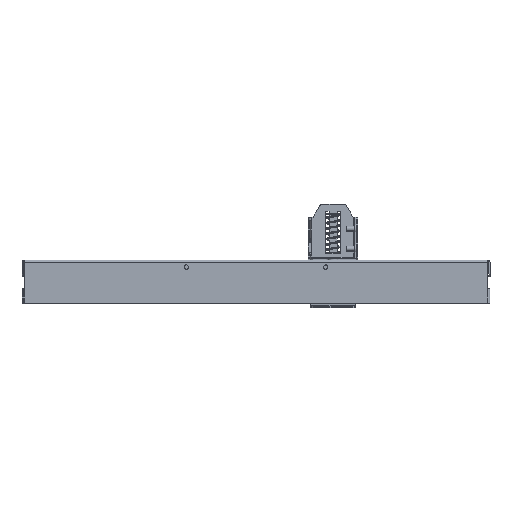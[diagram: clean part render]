
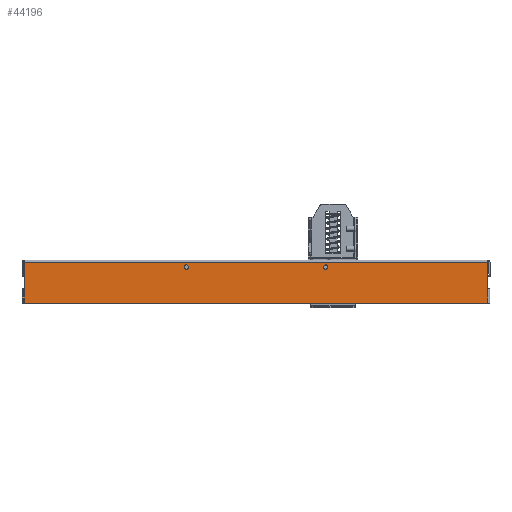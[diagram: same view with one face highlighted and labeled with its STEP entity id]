
A CAD part, front view. The second image highlights one B-rep face of the part: STEP entity #44196.
In plain terms, the highlighted planar face has unit normal (0, -1, 0).
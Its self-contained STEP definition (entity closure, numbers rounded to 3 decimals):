
#30166=CARTESIAN_POINT(' ',(-232.793,-107.5,-2.1));
#30167=VERTEX_POINT(' ',#30166);
#41441=CARTESIAN_POINT(' ',(232.793,-107.5,-2.1));
#41446=DIRECTION(' ',(-1.,0.,0.));
#41451=VECTOR(' ',#41446,1.);
#41456=LINE('',#41441,#41451);
#41461=CARTESIAN_POINT(' ',(232.793,-107.5,-2.1));
#41462=VERTEX_POINT(' ',#41461);
#41466=EDGE_CURVE(' ',#41462,#30167,#41456,.T.);
#41881=CARTESIAN_POINT(' ',(-232.793,-107.5,-28.5));
#41882=VERTEX_POINT(' ',#41881);
#41896=CARTESIAN_POINT(' ',(-232.793,-107.5,-28.5));
#41901=DIRECTION(' ',(0.,0.,1.));
#41906=VECTOR(' ',#41901,1.);
#41911=LINE('',#41896,#41906);
#41916=EDGE_CURVE(' ',#41882,#30167,#41911,.T.);
#43836=DIRECTION(' ',(0.,-1.,0.));
#43841=CARTESIAN_POINT(' ',(-232.793,-107.5,-2.1));
#43846=DIRECTION(' ',(0.,0.,-1.));
#43851=AXIS2_PLACEMENT_3D(' ',#43841,#43836,#43846);
#43856=PLANE('NONE',#43851);
#43861=CARTESIAN_POINT(' ',(-232.793,-107.5,-43.5));
#43866=DIRECTION(' ',(0.,0.,1.));
#43871=VECTOR(' ',#43866,1.);
#43876=LINE('',#43861,#43871);
#43881=CARTESIAN_POINT(' ',(-232.793,-107.5,-43.5));
#43882=VERTEX_POINT(' ',#43881);
#43886=EDGE_CURVE(' ',#43882,#41882,#43876,.T.);
#43891=ORIENTED_EDGE(' ',*,*,#43886,.F.);
#43896=CARTESIAN_POINT(' ',(232.793,-107.5,-43.5));
#43901=DIRECTION(' ',(-1.,0.,0.));
#43906=VECTOR(' ',#43901,1.);
#43911=LINE('',#43896,#43906);
#43916=CARTESIAN_POINT(' ',(232.793,-107.5,-43.5));
#43917=VERTEX_POINT(' ',#43916);
#43921=EDGE_CURVE(' ',#43917,#43882,#43911,.T.);
#43926=ORIENTED_EDGE(' ',*,*,#43921,.F.);
#43931=CARTESIAN_POINT(' ',(232.793,-107.5,-43.5));
#43936=DIRECTION(' ',(0.,0.,1.));
#43941=VECTOR(' ',#43936,1.);
#43946=LINE('',#43931,#43941);
#43951=CARTESIAN_POINT(' ',(232.793,-107.5,-28.5));
#43952=VERTEX_POINT(' ',#43951);
#43956=EDGE_CURVE(' ',#43917,#43952,#43946,.T.);
#43961=ORIENTED_EDGE(' ',*,*,#43956,.T.);
#43966=CARTESIAN_POINT(' ',(232.793,-107.5,-28.5));
#43971=DIRECTION(' ',(0.,0.,1.));
#43976=VECTOR(' ',#43971,1.);
#43981=LINE('',#43966,#43976);
#43986=EDGE_CURVE(' ',#43952,#41462,#43981,.T.);
#43991=ORIENTED_EDGE(' ',*,*,#43986,.T.);
#43996=ORIENTED_EDGE(' ',*,*,#41466,.T.);
#44001=ORIENTED_EDGE(' ',*,*,#41916,.F.);
#44006=EDGE_LOOP(' ',(#43891,#43926,#43961,#43991,#43996,#44001));
#44011=FACE_OUTER_BOUND(' ',#44006,.T.);
#44016=CARTESIAN_POINT(' ',(70.,-107.5,-7.));
#44021=DIRECTION(' ',(0.,-1.,0.));
#44026=DIRECTION(' ',(0.,0.,-1.));
#44031=AXIS2_PLACEMENT_3D(' ',#44016,#44021,#44026);
#44036=CIRCLE('',#44031,2.1);
#44041=CARTESIAN_POINT(' ',(70.,-107.5,-9.1));
#44042=VERTEX_POINT(' ',#44041);
#44046=CARTESIAN_POINT(' ',(70.,-107.5,-4.9));
#44047=VERTEX_POINT(' ',#44046);
#44051=EDGE_CURVE(' ',#44042,#44047,#44036,.T.);
#44056=ORIENTED_EDGE(' ',*,*,#44051,.F.);
#44061=CARTESIAN_POINT(' ',(70.,-107.5,-7.));
#44066=DIRECTION(' ',(0.,-1.,0.));
#44071=DIRECTION(' ',(0.,0.,1.));
#44076=AXIS2_PLACEMENT_3D(' ',#44061,#44066,#44071);
#44081=CIRCLE('',#44076,2.1);
#44086=EDGE_CURVE(' ',#44047,#44042,#44081,.T.);
#44091=ORIENTED_EDGE(' ',*,*,#44086,.F.);
#44096=EDGE_LOOP(' ',(#44056,#44091));
#44101=FACE_BOUND(' ',#44096,.T.);
#44106=CARTESIAN_POINT(' ',(-70.,-107.5,-7.));
#44111=DIRECTION(' ',(0.,-1.,0.));
#44116=DIRECTION(' ',(0.,0.,-1.));
#44121=AXIS2_PLACEMENT_3D(' ',#44106,#44111,#44116);
#44126=CIRCLE('',#44121,2.1);
#44131=CARTESIAN_POINT(' ',(-70.,-107.5,-9.1));
#44132=VERTEX_POINT(' ',#44131);
#44136=CARTESIAN_POINT(' ',(-70.,-107.5,-4.9));
#44137=VERTEX_POINT(' ',#44136);
#44141=EDGE_CURVE(' ',#44132,#44137,#44126,.T.);
#44146=ORIENTED_EDGE(' ',*,*,#44141,.F.);
#44151=CARTESIAN_POINT(' ',(-70.,-107.5,-7.));
#44156=DIRECTION(' ',(0.,-1.,0.));
#44161=DIRECTION(' ',(0.,0.,1.));
#44166=AXIS2_PLACEMENT_3D(' ',#44151,#44156,#44161);
#44171=CIRCLE('',#44166,2.1);
#44176=EDGE_CURVE(' ',#44137,#44132,#44171,.T.);
#44181=ORIENTED_EDGE(' ',*,*,#44176,.F.);
#44186=EDGE_LOOP(' ',(#44146,#44181));
#44191=FACE_BOUND(' ',#44186,.T.);
#44196=ADVANCED_FACE('NONE',(#44011,#44101,#44191),#43856,.T.);
